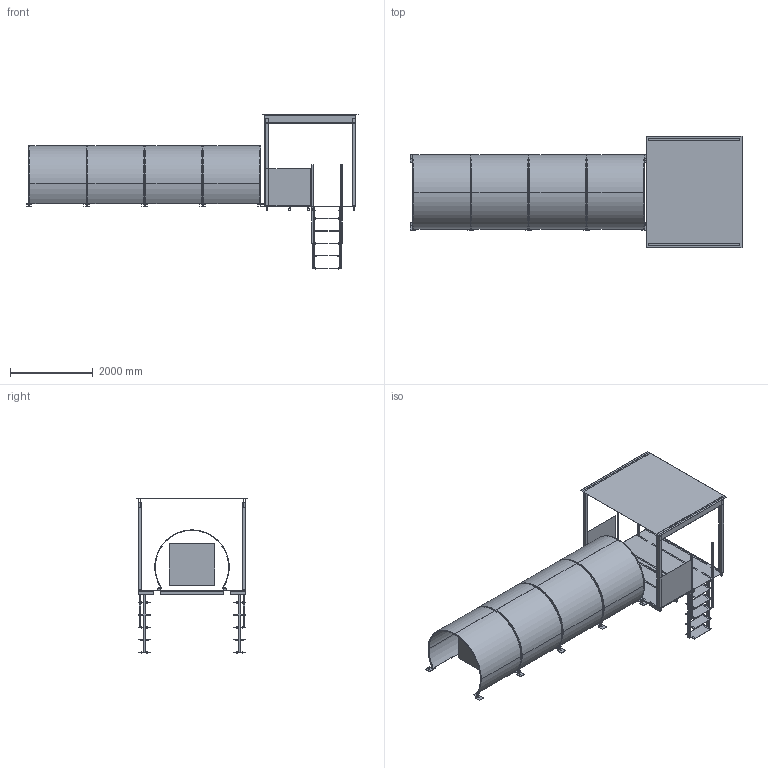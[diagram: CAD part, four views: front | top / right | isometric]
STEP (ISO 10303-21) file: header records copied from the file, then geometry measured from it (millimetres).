
FILE_DESCRIPTION(('Open CASCADE Model'),'2;1');
FILE_NAME('Open CASCADE Shape Model','2026-10-19T14:33:49',('Author'),( 'Open CASCADE'),'Open CASCADE STEP processor 7.8','Open CASCADE 7.8' ,'Unknown');
FILE_SCHEMA(('AUTOMOTIVE_DESIGN { 1 0 10303 214 1 1 1 1 }'));
Length unit declared in the file: millimetre
Products named in the file (462): Open CASCADE STEP translator 7.8 2; Open CASCADE STEP translator 7.8 2.1; Open CASCADE STEP translator 7.8 2.2; Open CASCADE STEP translator 7.8 2.3; Open CASCADE STEP translator 7.8 2.4; Open CASCADE STEP translator 7.8 2.5; Open CASCADE STEP translator 7.8 2.6; Open CASCADE STEP translator 7.8 2.7; Open CASCADE STEP translator 7.8 2.8; Open CASCADE STEP translator 7.8 2.9; Open CASCADE STEP translator 7.8 2.10; Open CASCADE STEP translator 7.8 2.11; Open CASCADE STEP translator 7.8 2.12; Open CASCADE STEP translator 7.8 2.13; Open CASCADE STEP translator 7.8 2.14; Open CASCADE STEP translator 7.8 2.15; Open CASCADE STEP translator 7.8 2.16; Open CASCADE STEP translator 7.8 2.17; Open CASCADE STEP translator 7.8 2.18; Open CASCADE STEP translator 7.8 2.19; Open CASCADE STEP translator 7.8 2.20; Open CASCADE STEP translator 7.8 2.21; Open CASCADE STEP translator 7.8 2.22; Open CASCADE STEP translator 7.8 2.23; Open CASCADE STEP translator 7.8 2.24; Open CASCADE STEP translator 7.8 2.25; Open CASCADE STEP translator 7.8 2.26; Open CASCADE STEP translator 7.8 2.27; Open CASCADE STEP translator 7.8 2.28; Open CASCADE STEP translator 7.8 2.29; Open CASCADE STEP translator 7.8 2.30; Open CASCADE STEP translator 7.8 2.31; Open CASCADE STEP translator 7.8 2.32; Open CASCADE STEP translator 7.8 2.33; Open CASCADE STEP translator 7.8 2.34; Open CASCADE STEP translator 7.8 2.35; Open CASCADE STEP translator 7.8 2.36; Open CASCADE STEP translator 7.8 2.37; Open CASCADE STEP translator 7.8 2.38; Open CASCADE STEP translator 7.8 2.39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
Assembly tree (461 placements, depth 2):
  Open CASCADE STEP translator 7.8 2
    Open CASCADE STEP translator 7.8 2.1
    Open CASCADE STEP translator 7.8 2.2
    Open CASCADE STEP translator 7.8 2.3
    Open CASCADE STEP translator 7.8 2.4
    Open CASCADE STEP translator 7.8 2.5
    Open CASCADE STEP translator 7.8 2.6
    Open CASCADE STEP translator 7.8 2.7
    Open CASCADE STEP translator 7.8 2.8
    Open CASCADE STEP translator 7.8 2.9
    Open CASCADE STEP translator 7.8 2.10
    Open CASCADE STEP translator 7.8 2.11
    Open CASCADE STEP translator 7.8 2.12
    Open CASCADE STEP translator 7.8 2.13
    Open CASCADE STEP translator 7.8 2.14
    Open CASCADE STEP translator 7.8 2.15
    Open CASCADE STEP translator 7.8 2.16
    Open CASCADE STEP translator 7.8 2.17
    Open CASCADE STEP translator 7.8 2.18
    Open CASCADE STEP translator 7.8 2.19
    Open CASCADE STEP translator 7.8 2.20
    Open CASCADE STEP translator 7.8 2.21
    Open CASCADE STEP translator 7.8 2.22
    Open CASCADE STEP translator 7.8 2.23
    Open CASCADE STEP translator 7.8 2.24
    Open CASCADE STEP translator 7.8 2.25
    Open CASCADE STEP translator 7.8 2.26
    Open CASCADE STEP translator 7.8 2.27
    Open CASCADE STEP translator 7.8 2.28
    Open CASCADE STEP translator 7.8 2.29
    Open CASCADE STEP translator 7.8 2.30
    Open CASCADE STEP translator 7.8 2.31
    Open CASCADE STEP translator 7.8 2.32
    Open CASCADE STEP translator 7.8 2.33
    Open CASCADE STEP translator 7.8 2.34
    Open CASCADE STEP translator 7.8 2.35
    Open CASCADE STEP translator 7.8 2.36
    Open CASCADE STEP translator 7.8 2.37
    Open CASCADE STEP translator 7.8 2.38
    Open CASCADE STEP translator 7.8 2.39
    Open CASCADE STEP translator 7.8 2.40
    Open CASCADE STEP translator 7.8 2.41
    Open CASCADE STEP translator 7.8 2.42
    Open CASCADE STEP translator 7.8 2.43
    Open CASCADE STEP translator 7.8 2.44
    Open CASCADE STEP translator 7.8 2.45
    Open CASCADE STEP translator 7.8 2.46
    Open CASCADE STEP translator 7.8 2.47
    Open CASCADE STEP translator 7.8 2.48
    Open CASCADE STEP translator 7.8 2.49
    Open CASCADE STEP translator 7.8 2.50
    Open CASCADE STEP translator 7.8 2.51
    Open CASCADE STEP translator 7.8 2.52
    Open CASCADE STEP translator 7.8 2.53
    Open CASCADE STEP translator 7.8 2.54
    Open CASCADE STEP translator 7.8 2.55
    Open CASCADE STEP translator 7.8 2.56
    Open CASCADE STEP translator 7.8 2.57
    Open CASCADE STEP translator 7.8 2.58
    Open CASCADE STEP translator 7.8 2.59
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Bounding box: 8020 x 2700 x 3727.5 mm (x, y, z)
Volume: 2806075586.5 mm3; surface area: 110246930.1 mm2
Topology: 461 solids, 461 shells, 3202 faces, 6416 edges, 4192 vertices
Faces by surface type: plane 2454, cylinder 748
Full cylindrical faces by diameter (mm): 8 x112, 8.7 x224, 9 x116, 13.5 x224
Entity records: 174220 total; most frequent: CARTESIAN_POINT 27824, DIRECTION 27416, LINE 15344, VECTOR 15344, ORIENTED_EDGE 12832, PCURVE 12832, DEFINITIONAL_REPRESENTATION 12832, EDGE_CURVE 6416
